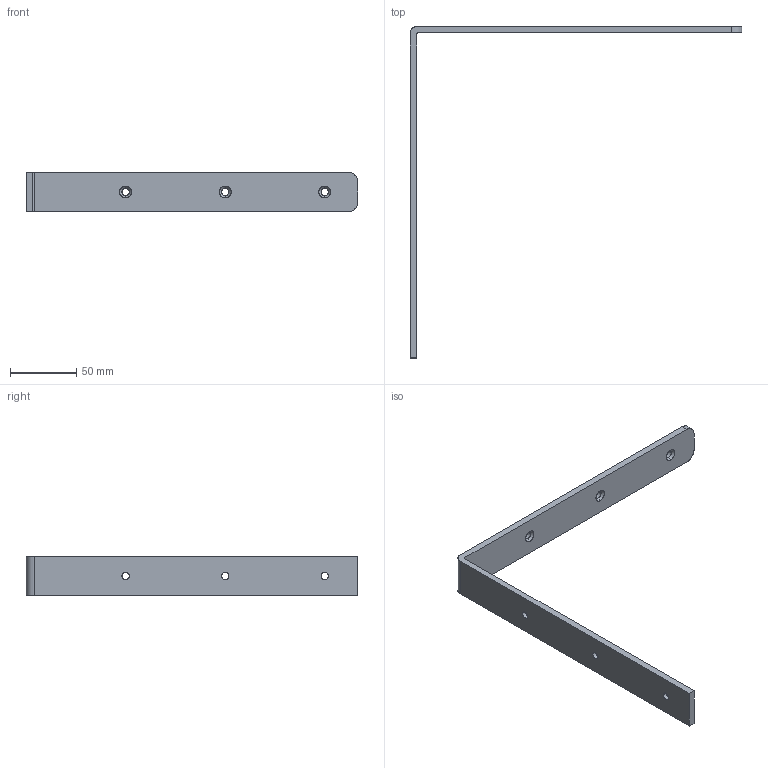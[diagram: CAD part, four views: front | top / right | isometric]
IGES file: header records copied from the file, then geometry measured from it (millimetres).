
Start section: SolidWorks IGES file using analytic representation for surfaces
Bounding box: 250 x 250 x 30 mm (x, y, z)
Surface area: 34906.5 mm2 (no closed solid volume)
Topology: 0 solids, 0 shells, 36 faces, 612 edges, 612 vertices
Faces by surface type: revolution 28, bspline 8
